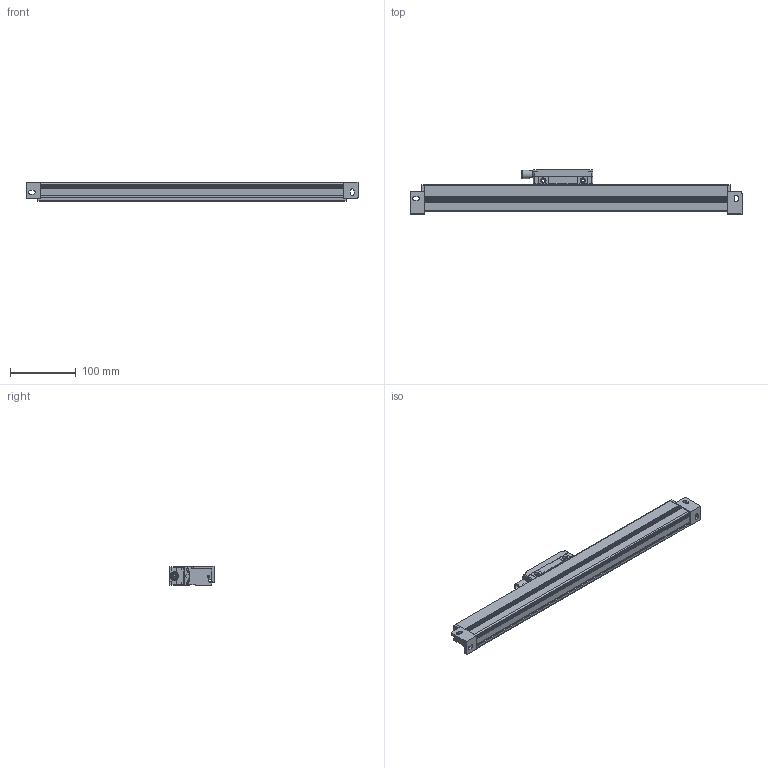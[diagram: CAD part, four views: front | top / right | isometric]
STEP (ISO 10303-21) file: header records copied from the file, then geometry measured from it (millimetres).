
FILE_DESCRIPTION (( 'STEP AP214' ), '1' );
FILE_NAME ('JCXE-L-0350.STEP', '2021-12-16T03:01:24', ( '微软用户' ), ( '微软中国' ), 'SwSTEP 2.0', 'SolidWorks 2010', '' );
FILE_SCHEMA (( 'AUTOMOTIVE_DESIGN' ));
Length unit declared in the file: millimetre
Products named in the file (7): MSBR-5_1-1; PRT0002; MSBR-4_1-1; MSBR-3_1-1; MSBR-2_1-1; 嫖掑喜旯L1200; JCXE-L-0350
Assembly tree (6 placements, depth 2):
  JCXE-L-0350
    MSBR-2_1-1
    嫖掑喜旯L1200
    PRT0002
    MSBR-4_1-1
    MSBR-5_1-1
    MSBR-3_1-1
Bounding box: 504 x 66.8 x 29.5 mm (x, y, z)
Volume: 255522.8 mm3; surface area: 173361.5 mm2
Topology: 6 solids, 6 shells, 547 faces, 1493 edges, 984 vertices
Faces by surface type: plane 331, cylinder 161, cone 27, bspline 25, sphere 3
Entity records: 18988 total; most frequent: CARTESIAN_POINT 4706, ORIENTED_EDGE 2978, DIRECTION 2838, EDGE_CURVE 1489, LINE 1018, VECTOR 1018, VERTEX_POINT 982, AXIS2_PLACEMENT_3D 910
